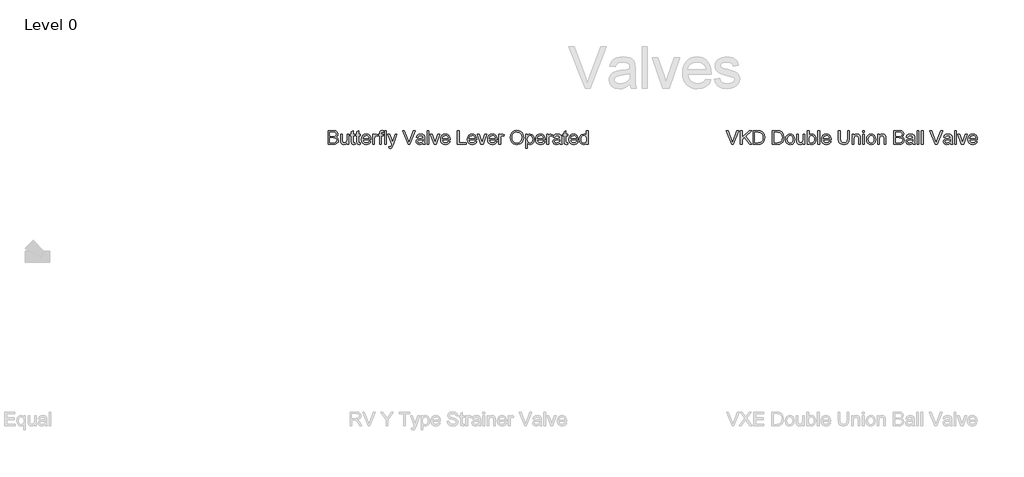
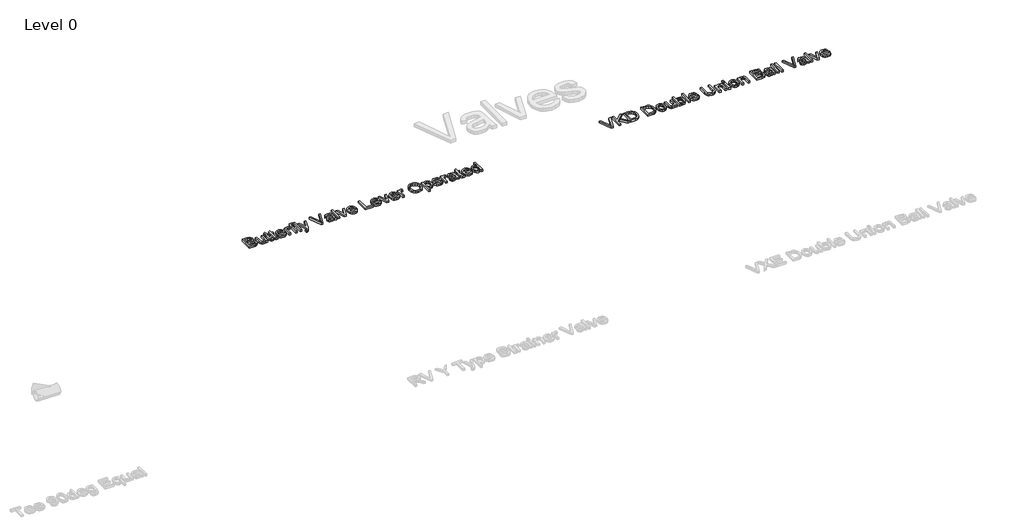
# One storey, part 11 of 12: 2 proxies.
"""IFC4 building model written with IfcOpenShell, lengths in millimetres."""

from ifc_helpers import new_model, si_unit, origin, origin_with_axes, place, context, project, spatial, polyline, outline, extrude, element, save

model = new_model("IFC4")

# Units and contexts
model_context = context("Model", 3, world=origin())
ifc_project = project(units=[si_unit("LENGTHUNIT", "METRE", prefix="MILLI")], contexts=[model_context])

# Site, building, storey
site = spatial("IfcSite", under=ifc_project)
building = spatial("IfcBuilding", under=site)
storey = spatial("IfcBuildingStorey", under=building, Name="Level 0", Elevation=0.0)

# Proxies
placement = place(None, origin())
element("IfcBuildingElementProxy", 1, Name="150mm Arial", ObjectType="150mm Arial", at=placement, inside=storey, context=model_context, shape_type="SweptSolid", body=[
    extrude(outline(polyline([(-8160.2746381, 8945.7253457), (-8160.2746381, 9044.1868842), (-8122.7025227, 9044.1868842), (-8104.3010804, 9041.2902496), (-8093.4356958, 9032.3839996), (-8089.5054073, 9019.7878457), (-8092.8106958, 9008.2854419), (-8102.7986766, 8999.5714996), (-8090.6712727, 8990.3888073), (-8086.4284843, 8975.0763073), (-8089.3251189, 8961.8431342), (-8096.5005996, 8952.4200573), (-8107.2097343, 8947.4200573), (-8122.9909843, 8945.7253457), (-8160.2746381, 8945.7253457)]), holes=[polyline([(-8147.9669458, 8958.033038), (-8122.7265612, 8958.033038), (-8113.5919458, 8958.5138073), (-8105.8635804, 8961.1940957), (-8100.7433881, 8966.6628457), (-8098.7361766, 8974.956115), (-8101.0919458, 8984.5234227), (-8108.7241573, 8990.2325573), (-8123.9284843, 8991.8791919), (-8147.9669458, 8991.8791919), (-8147.9669458, 8958.033038)]), polyline([(-8147.9669458, 9004.1868842), (-8125.4909843, 9004.1868842), (-8112.3659843, 9005.2445765), (-8104.4693496, 9009.799865), (-8101.8130996, 9017.8166919), (-8104.2890612, 9025.845538), (-8111.3804073, 9030.5931342), (-8127.197715, 9031.8791919), (-8147.9669458, 9031.8791919), (-8147.9669458, 9004.1868842)])]), origin_with_axes(), (0.0, 0.0, 1.0), 15.0),
    extrude(outline(polyline([(-8024.8900227, 8945.7253457), (-8024.8900227, 8958.1532304), (-8034.5294458, 8947.6784707), (-8047.1015612, 8944.1868842), (-8058.6760804, 8946.6388073), (-8066.6568496, 8952.7926534), (-8070.322715, 8961.8551534), (-8071.0438689, 8973.2974611), (-8071.0438689, 9018.033038), (-8058.7361766, 9018.033038), (-8058.7361766, 8979.0907304), (-8057.9909843, 8966.5426534), (-8053.1231958, 8959.174865), (-8043.9525227, 8956.4945765), (-8033.6760804, 8959.2349611), (-8026.885215, 8966.6989034), (-8024.8900227, 8980.4128457), (-8024.8900227, 9018.033038), (-8012.5823304, 9018.033038), (-8012.5823304, 8945.7253457), (-8024.8900227, 8945.7253457)])), origin_with_axes(), (0.0, 0.0, 1.0), 15.0),
    extrude(outline(polyline([(-7969.5054073, 8955.9897688), (-7967.9669458, 8945.3647688), (-7977.1736766, 8944.1868842), (-7987.4861766, 8946.2301534), (-7992.6304073, 8951.5907304), (-7994.1207919, 8965.5570765), (-7994.1207919, 9005.7253457), (-8003.3515612, 9005.7253457), (-8003.3515612, 9018.033038), (-7994.1207919, 9018.033038), (-7994.1207919, 9035.6051534), (-7981.8130996, 9042.8407304), (-7981.8130996, 9018.033038), (-7969.5054073, 9018.033038), (-7969.5054073, 9005.7253457), (-7981.8130996, 9005.7253457), (-7981.8130996, 8965.9176534), (-7981.1640612, 8959.5714996), (-7979.0606958, 8957.3239034), (-7974.8659843, 8956.4945765), (-7969.5054073, 8955.9897688)])), origin_with_axes(), (0.0, 0.0, 1.0), 15.0),
    extrude(outline(polyline([(-7931.0438689, 8955.9897688), (-7929.5054073, 8945.3647688), (-7938.7121381, 8944.1868842), (-7949.0246381, 8946.2301534), (-7954.1688689, 8951.5907304), (-7955.6592535, 8965.5570765), (-7955.6592535, 9005.7253457), (-7964.8900227, 9005.7253457), (-7964.8900227, 9018.033038), (-7955.6592535, 9018.033038), (-7955.6592535, 9035.6051534), (-7943.3515612, 9042.8407304), (-7943.3515612, 9018.033038), (-7931.0438689, 9018.033038), (-7931.0438689, 9005.7253457), (-7943.3515612, 9005.7253457), (-7943.3515612, 8965.9176534), (-7942.7025227, 8959.5714996), (-7940.5991573, 8957.3239034), (-7936.4044458, 8956.4945765), (-7931.0438689, 8955.9897688)])), origin_with_axes(), (0.0, 0.0, 1.0), 15.0),
    extrude(outline(polyline([(-7868.1111766, 8967.2638073), (-7856.0438689, 8965.7253457), (-7860.3918256, 8956.6327977), (-7867.3299266, 8949.8359227), (-7876.7019218, 8945.5991438), (-7888.3515612, 8944.1868842), (-7902.7926669, 8946.6237832), (-7913.9044458, 8953.9344804), (-7920.9897823, 8965.6442159), (-7923.3515612, 8981.2782304), (-7920.9657439, 8997.4380861), (-7913.8082919, 9009.5234227), (-7902.8467535, 9017.0594804), (-7889.0486766, 9019.5714996), (-7875.6802871, 9017.06549), (-7864.9981958, 9009.5474611), (-7857.9939891, 8997.486163), (-7855.6592535, 8981.3503457), (-7855.7313689, 8978.033038), (-7911.0438689, 8978.033038), (-7908.9134602, 8968.8202977), (-7903.9645419, 8962.0474611), (-7888.1111766, 8956.4945765), (-7876.0438689, 8959.0666919), (-7868.1111766, 8967.2638073)]), holes=[polyline([(-7911.0438689, 8990.3407304), (-7867.9669458, 8990.3407304), (-7872.8948304, 9001.4945765), (-7880.0703112, 9005.8214996), (-7889.0967535, 9007.2638073), (-7904.2530035, 9002.6604419), (-7911.0438689, 8990.3407304)])]), origin_with_axes(), (0.0, 0.0, 1.0), 15.0),
    extrude(outline(polyline([(-7843.3515612, 8945.7253457), (-7843.3515612, 9018.033038), (-7832.5823304, 9018.033038), (-7832.5823304, 9007.3359227), (-7824.9380996, 9017.1916919), (-7817.2457919, 9019.5714996), (-7804.8900227, 9015.7734227), (-7809.0005996, 9004.7397688), (-7817.6544458, 9007.2638073), (-7824.6135804, 9004.8359227), (-7829.0486766, 8998.1051534), (-7831.0438689, 8983.7301534), (-7831.0438689, 8945.7253457), (-7843.3515612, 8945.7253457)])), origin_with_axes(), (0.0, 0.0, 1.0), 15.0),
    extrude(outline(polyline([(-7794.1207919, 8945.7253457), (-7794.1207919, 9005.7253457), (-7804.8900227, 9005.7253457), (-7804.8900227, 9018.033038), (-7794.1207919, 9018.033038), (-7794.1207919, 9025.3166919), (-7792.822715, 9035.581115), (-7786.5246381, 9042.9128457), (-7774.1207919, 9045.7253457), (-7762.8948304, 9044.3791919), (-7764.697715, 9032.8407304), (-7771.7890612, 9033.4176534), (-7779.541465, 9031.3743842), (-7781.8130996, 9023.7541919), (-7781.8130996, 9018.033038), (-7767.9669458, 9018.033038), (-7767.9669458, 9005.7253457), (-7781.8130996, 9005.7253457), (-7781.8130996, 8945.7253457), (-7794.1207919, 8945.7253457)])), origin_with_axes(), (0.0, 0.0, 1.0), 15.0),
    extrude(outline(polyline([(-7757.197715, 8945.7253457), (-7757.197715, 9044.1868842), (-7744.8900227, 9044.1868842), (-7744.8900227, 8945.7253457), (-7757.197715, 8945.7253457)])), origin_with_axes(), (0.0, 0.0, 1.0), 15.0),
    extrude(outline(polyline([(-7726.4284843, 8918.033038), (-7727.9669458, 8929.8839996), (-7721.7169458, 8928.8022688), (-7715.8755996, 8930.1604419), (-7712.2938689, 8933.9464996), (-7708.9284843, 8943.0089996), (-7707.9669458, 8945.9897688), (-7734.1207919, 9018.033038), (-7721.1400227, 9018.033038), (-7707.2698304, 8977.8888073), (-7702.4380996, 8961.831115), (-7697.6063689, 8976.0138073), (-7683.3515612, 9018.033038), (-7670.4669458, 9018.033038), (-7695.635215, 8943.9945765), (-7702.1736766, 8927.9368842), (-7709.3130996, 8919.2589996), (-7718.9044458, 8916.4945765), (-7726.4284843, 8918.033038)])), origin_with_axes(), (0.0, 0.0, 1.0), 15.0),
    extrude(outline(polyline([(-7591.1880996, 8945.7253457), (-7630.3707919, 9044.1868842), (-7617.197715, 9044.1868842), (-7590.9717535, 8973.2493842), (-7585.6592535, 8957.2638073), (-7580.4188689, 8973.2493842), (-7554.1207919, 9044.1868842), (-7540.947715, 9044.1868842), (-7578.4717535, 8945.7253457), (-7591.1880996, 8945.7253457)])), origin_with_axes(), (0.0, 0.0, 1.0), 15.0),
    extrude(outline(polyline([(-7484.8900227, 8954.956115), (-7496.8251189, 8946.6147688), (-7510.010215, 8944.1868842), (-7520.2956718, 8945.6472207), (-7527.8828112, 8950.0282304), (-7532.5612968, 8956.6808746), (-7534.1207919, 8964.956115), (-7531.7650227, 8974.6916919), (-7525.5751189, 8981.7589996), (-7516.9573304, 8985.7974611), (-7506.3082919, 8987.6484227), (-7484.9621381, 8991.8791919), (-7484.8900227, 8994.6195765), (-7488.2794458, 9003.706115), (-7501.885215, 9007.2638073), (-7514.3371381, 9004.8960188), (-7520.2746381, 8996.4945765), (-7532.5823304, 8998.033038), (-7527.2578112, 9010.0522688), (-7516.5366573, 9017.095538), (-7500.2986766, 9019.5714996), (-7485.3828112, 9017.3839996), (-7476.9573304, 9011.8912111), (-7473.1832919, 9003.5378457), (-7472.5823304, 8992.768615), (-7472.5823304, 8977.456115), (-7471.9573304, 8956.0739034), (-7469.5054073, 8945.7253457), (-7481.8130996, 8945.7253457), (-7484.8900227, 8954.956115)]), holes=[polyline([(-7484.8900227, 8979.5714996), (-7504.7457919, 8975.7974611), (-7515.3347343, 8973.8022688), (-7520.1304073, 8970.5570765), (-7521.8130996, 8965.8214996), (-7518.1472343, 8959.1628457), (-7507.3900227, 8956.4945765), (-7494.9380996, 8959.439288), (-7486.9092535, 8966.5666919), (-7484.9621381, 8976.0859227), (-7484.8900227, 8979.5714996)])]), origin_with_axes(), (0.0, 0.0, 1.0), 15.0),
    extrude(outline(polyline([(-7455.6592535, 8945.7253457), (-7455.6592535, 9044.1868842), (-7443.3515612, 9044.1868842), (-7443.3515612, 8945.7253457), (-7455.6592535, 8945.7253457)])), origin_with_axes(), (0.0, 0.0, 1.0), 15.0),
    extrude(outline(polyline([(-7407.1496381, 8945.7253457), (-7432.5823304, 9018.033038), (-7419.5534843, 9018.033038), (-7404.1448304, 8974.7157304), (-7399.5054073, 8960.1484227), (-7394.9621381, 8973.8984227), (-7379.4573304, 9018.033038), (-7366.4284843, 9018.033038), (-7391.5486766, 8945.7253457), (-7407.1496381, 8945.7253457)])), origin_with_axes(), (0.0, 0.0, 1.0), 15.0),
    extrude(outline(polyline([(-7305.0342535, 8967.2638073), (-7292.9669458, 8965.7253457), (-7297.3149025, 8956.6327977), (-7304.2530035, 8949.8359227), (-7313.6249987, 8945.5991438), (-7325.2746381, 8944.1868842), (-7339.7157439, 8946.6237832), (-7350.8275227, 8953.9344804), (-7357.9128593, 8965.6442159), (-7360.2746381, 8981.2782304), (-7357.8888208, 8997.4380861), (-7350.7313689, 9009.5234227), (-7339.7698304, 9017.0594804), (-7325.9717535, 9019.5714996), (-7312.6033641, 9017.06549), (-7301.9212727, 9009.5474611), (-7294.917066, 8997.486163), (-7292.5823304, 8981.3503457), (-7292.6544458, 8978.033038), (-7347.9669458, 8978.033038), (-7345.8365371, 8968.8202977), (-7340.8876189, 8962.0474611), (-7325.0342535, 8956.4945765), (-7312.9669458, 8959.0666919), (-7305.0342535, 8967.2638073)]), holes=[polyline([(-7347.9669458, 8990.3407304), (-7304.8900227, 8990.3407304), (-7309.8179073, 9001.4945765), (-7316.9933881, 9005.8214996), (-7326.0198304, 9007.2638073), (-7341.1760804, 9002.6604419), (-7347.9669458, 8990.3407304)])]), origin_with_axes(), (0.0, 0.0, 1.0), 15.0),
    extrude(outline(polyline([(-7240.2746381, 8945.7253457), (-7240.2746381, 9044.1868842), (-7227.9669458, 9044.1868842), (-7227.9669458, 8958.033038), (-7178.7361766, 8958.033038), (-7178.7361766, 8945.7253457), (-7240.2746381, 8945.7253457)])), origin_with_axes(), (0.0, 0.0, 1.0), 15.0),
    extrude(outline(polyline([(-7115.8034843, 8967.2638073), (-7103.7361766, 8965.7253457), (-7108.0841333, 8956.6327977), (-7115.0222343, 8949.8359227), (-7124.3942294, 8945.5991438), (-7136.0438689, 8944.1868842), (-7150.4849746, 8946.6237832), (-7161.5967535, 8953.9344804), (-7168.68209, 8965.6442159), (-7171.0438689, 8981.2782304), (-7168.6580516, 8997.4380861), (-7161.5005996, 9009.5234227), (-7150.5390612, 9017.0594804), (-7136.7409843, 9019.5714996), (-7123.3725948, 9017.06549), (-7112.6905035, 9009.5474611), (-7105.6862968, 8997.486163), (-7103.3515612, 8981.3503457), (-7103.4236766, 8978.033038), (-7158.7361766, 8978.033038), (-7156.6057679, 8968.8202977), (-7151.6568496, 8962.0474611), (-7135.8034843, 8956.4945765), (-7123.7361766, 8959.0666919), (-7115.8034843, 8967.2638073)]), holes=[polyline([(-7158.7361766, 8990.3407304), (-7115.6592535, 8990.3407304), (-7120.5871381, 9001.4945765), (-7127.7626189, 9005.8214996), (-7136.7890612, 9007.2638073), (-7151.9453112, 9002.6604419), (-7158.7361766, 8990.3407304)])]), origin_with_axes(), (0.0, 0.0, 1.0), 15.0),
    extrude(outline(polyline([(-7073.3034843, 8945.7253457), (-7098.7361766, 9018.033038), (-7085.7073304, 9018.033038), (-7070.2986766, 8974.7157304), (-7065.6592535, 8960.1484227), (-7061.1159843, 8973.8984227), (-7045.6111766, 9018.033038), (-7032.5823304, 9018.033038), (-7057.7025227, 8945.7253457), (-7073.3034843, 8945.7253457)])), origin_with_axes(), (0.0, 0.0, 1.0), 15.0),
    extrude(outline(polyline([(-6971.1880996, 8967.2638073), (-6959.1207919, 8965.7253457), (-6963.4687487, 8956.6327977), (-6970.4068496, 8949.8359227), (-6979.7788448, 8945.5991438), (-6991.4284843, 8944.1868842), (-7005.86959, 8946.6237832), (-7016.9813689, 8953.9344804), (-7024.0667054, 8965.6442159), (-7026.4284843, 8981.2782304), (-7024.0426669, 8997.4380861), (-7016.885215, 9009.5234227), (-7005.9236766, 9017.0594804), (-6992.1255996, 9019.5714996), (-6978.7572102, 9017.06549), (-6968.0751189, 9009.5474611), (-6961.0709121, 8997.486163), (-6958.7361766, 8981.3503457), (-6958.8082919, 8978.033038), (-7014.1207919, 8978.033038), (-7011.9903833, 8968.8202977), (-7007.041465, 8962.0474611), (-6991.1880996, 8956.4945765), (-6979.1207919, 8959.0666919), (-6971.1880996, 8967.2638073)]), holes=[polyline([(-7014.1207919, 8990.3407304), (-6971.0438689, 8990.3407304), (-6975.9717535, 9001.4945765), (-6983.1472343, 9005.8214996), (-6992.1736766, 9007.2638073), (-7007.3299266, 9002.6604419), (-7014.1207919, 8990.3407304)])]), origin_with_axes(), (0.0, 0.0, 1.0), 15.0),
    extrude(outline(polyline([(-6946.4284843, 8945.7253457), (-6946.4284843, 9018.033038), (-6935.6592535, 9018.033038), (-6935.6592535, 9007.3359227), (-6928.0150227, 9017.1916919), (-6920.322715, 9019.5714996), (-6907.9669458, 9015.7734227), (-6912.0775227, 9004.7397688), (-6920.7313689, 9007.2638073), (-6927.6905035, 9004.8359227), (-6932.1255996, 8998.1051534), (-6934.1207919, 8983.7301534), (-6934.1207919, 8945.7253457), (-6946.4284843, 8945.7253457)])), origin_with_axes(), (0.0, 0.0, 1.0), 15.0),
    extrude(outline(polyline([(-6864.8900227, 8993.658038), (-6861.6087727, 9015.4308746), (-6851.7650227, 9031.9032304), (-6836.7349746, 9042.2698169), (-6817.8948304, 9045.7253457), (-6804.9801669, 9044.1027496), (-6793.3996381, 9039.2349611), (-6783.7842535, 9031.4645284), (-6776.7650227, 9021.1339996), (-6771.0438689, 8994.7878457), (-6772.5492775, 8980.6472207), (-6777.0655035, 8968.081115), (-6784.3431477, 8957.7325573), (-6794.1328112, 8950.2445765), (-6817.9669458, 8944.1868842), (-6831.0799266, 8945.8605621), (-6842.7265612, 8950.8815957), (-6852.3179073, 8958.7962592), (-6859.2650227, 8969.1508265), (-6864.8900227, 8993.658038)]), holes=[polyline([(-6852.5823304, 8993.5378457), (-6850.1213929, 8978.1352015), (-6842.7385804, 8966.3984227), (-6831.6418256, 8958.970538), (-6818.0390612, 8956.4945765), (-6804.2379794, 8958.9945765), (-6793.1231958, 8966.4945765), (-6785.7944698, 8978.5919323), (-6783.3515612, 8994.8839996), (-6787.5342535, 9015.1964996), (-6799.7578112, 9028.6460188), (-6817.822715, 9033.4176534), (-6831.0618977, 9031.1189755), (-6842.3179073, 9024.2229419), (-6850.0162246, 9011.9543121), (-6852.5823304, 8993.5378457)])]), origin_with_axes(), (0.0, 0.0, 1.0), 15.0),
    extrude(outline(polyline([(-6755.6592535, 8918.033038), (-6755.6592535, 9018.033038), (-6743.3515612, 9018.033038), (-6743.3515612, 9005.9657304), (-6734.8419458, 9016.1700573), (-6723.3515612, 9019.5714996), (-6707.7505996, 9014.8118842), (-6697.5582919, 9001.3984227), (-6694.1207919, 8982.4320765), (-6698.0030035, 8962.4921727), (-6709.2770419, 8948.9104419), (-6724.8419458, 8944.1868842), (-6735.5510804, 8947.3479419), (-6743.3515612, 8955.3407304), (-6743.3515612, 8918.033038), (-6755.6592535, 8918.033038)]), holes=[polyline([(-6743.3515612, 8981.3022688), (-6742.0204314, 8970.268615), (-6738.0270419, 8962.5522688), (-6732.1346141, 8958.0089996), (-6725.1063689, 8956.4945765), (-6717.963941, 8958.0630861), (-6711.9212727, 8962.768615), (-6707.8016814, 8970.767413), (-6706.4284843, 8982.2157304), (-6707.7686285, 8993.189288), (-6711.7890612, 9001.0138073), (-6717.6724746, 9005.7013073), (-6724.6015612, 9007.2638073), (-6731.557691, 9005.6021486), (-6737.666465, 9000.6171727), (-6741.9302871, 8992.4651294), (-6743.3515612, 8981.3022688)])]), origin_with_axes(), (0.0, 0.0, 1.0), 15.0),
    extrude(outline(polyline([(-6629.6496381, 8967.2638073), (-6617.5823304, 8965.7253457), (-6621.9302871, 8956.6327977), (-6628.8683881, 8949.8359227), (-6638.2403833, 8945.5991438), (-6649.8900227, 8944.1868842), (-6664.3311285, 8946.6237832), (-6675.4429073, 8953.9344804), (-6682.5282439, 8965.6442159), (-6684.8900227, 8981.2782304), (-6682.5042054, 8997.4380861), (-6675.3467535, 9009.5234227), (-6664.385215, 9017.0594804), (-6650.5871381, 9019.5714996), (-6637.2187487, 9017.06549), (-6626.5366573, 9009.5474611), (-6619.5324506, 8997.486163), (-6617.197715, 8981.3503457), (-6617.2698304, 8978.033038), (-6672.5823304, 8978.033038), (-6670.4519218, 8968.8202977), (-6665.5030035, 8962.0474611), (-6649.6496381, 8956.4945765), (-6637.5823304, 8959.0666919), (-6629.6496381, 8967.2638073)]), holes=[polyline([(-6672.5823304, 8990.3407304), (-6629.5054073, 8990.3407304), (-6634.4332919, 9001.4945765), (-6641.6087727, 9005.8214996), (-6650.635215, 9007.2638073), (-6665.791465, 9002.6604419), (-6672.5823304, 8990.3407304)])]), origin_with_axes(), (0.0, 0.0, 1.0), 15.0),
    extrude(outline(polyline([(-6604.8900227, 8945.7253457), (-6604.8900227, 9018.033038), (-6594.1207919, 9018.033038), (-6594.1207919, 9007.3359227), (-6586.4765612, 9017.1916919), (-6578.7842535, 9019.5714996), (-6566.4284843, 9015.7734227), (-6570.5390612, 9004.7397688), (-6579.1929073, 9007.2638073), (-6586.1520419, 9004.8359227), (-6590.5871381, 8998.1051534), (-6592.5823304, 8983.7301534), (-6592.5823304, 8945.7253457), (-6604.8900227, 8945.7253457)])), origin_with_axes(), (0.0, 0.0, 1.0), 15.0),
    extrude(outline(polyline([(-6512.5823304, 8954.956115), (-6524.5174266, 8946.6147688), (-6537.7025227, 8944.1868842), (-6547.9879794, 8945.6472207), (-6555.5751189, 8950.0282304), (-6560.2536044, 8956.6808746), (-6561.8130996, 8964.956115), (-6559.4573304, 8974.6916919), (-6553.2674266, 8981.7589996), (-6544.6496381, 8985.7974611), (-6534.0005996, 8987.6484227), (-6512.6544458, 8991.8791919), (-6512.5823304, 8994.6195765), (-6515.9717535, 9003.706115), (-6529.5775227, 9007.2638073), (-6542.0294458, 9004.8960188), (-6547.9669458, 8996.4945765), (-6560.2746381, 8998.033038), (-6554.9501189, 9010.0522688), (-6544.228965, 9017.095538), (-6527.9909843, 9019.5714996), (-6513.0751189, 9017.3839996), (-6504.6496381, 9011.8912111), (-6500.8755996, 9003.5378457), (-6500.2746381, 8992.768615), (-6500.2746381, 8977.456115), (-6499.6496381, 8956.0739034), (-6497.197715, 8945.7253457), (-6509.5054073, 8945.7253457), (-6512.5823304, 8954.956115)]), holes=[polyline([(-6512.5823304, 8979.5714996), (-6532.4380996, 8975.7974611), (-6543.0270419, 8973.8022688), (-6547.822715, 8970.5570765), (-6549.5054073, 8965.8214996), (-6545.8395419, 8959.1628457), (-6535.0823304, 8956.4945765), (-6522.6304073, 8959.439288), (-6514.6015612, 8966.5666919), (-6512.6544458, 8976.0859227), (-6512.5823304, 8979.5714996)])]), origin_with_axes(), (0.0, 0.0, 1.0), 15.0),
    extrude(outline(polyline([(-6457.197715, 8955.9897688), (-6455.6592535, 8945.3647688), (-6464.8659843, 8944.1868842), (-6475.1784843, 8946.2301534), (-6480.322715, 8951.5907304), (-6481.8130996, 8965.5570765), (-6481.8130996, 9005.7253457), (-6491.0438689, 9005.7253457), (-6491.0438689, 9018.033038), (-6481.8130996, 9018.033038), (-6481.8130996, 9035.6051534), (-6469.5054073, 9042.8407304), (-6469.5054073, 9018.033038), (-6457.197715, 9018.033038), (-6457.197715, 9005.7253457), (-6469.5054073, 9005.7253457), (-6469.5054073, 8965.9176534), (-6468.8563689, 8959.5714996), (-6466.7530035, 8957.3239034), (-6462.5582919, 8956.4945765), (-6457.197715, 8955.9897688)])), origin_with_axes(), (0.0, 0.0, 1.0), 15.0),
    extrude(outline(polyline([(-6394.2650227, 8967.2638073), (-6382.197715, 8965.7253457), (-6386.5456718, 8956.6327977), (-6393.4837727, 8949.8359227), (-6402.8557679, 8945.5991438), (-6414.5054073, 8944.1868842), (-6428.9465131, 8946.6237832), (-6440.0582919, 8953.9344804), (-6447.1436285, 8965.6442159), (-6449.5054073, 8981.2782304), (-6447.11959, 8997.4380861), (-6439.9621381, 9009.5234227), (-6429.0005996, 9017.0594804), (-6415.2025227, 9019.5714996), (-6401.8341333, 9017.06549), (-6391.1520419, 9009.5474611), (-6384.1478352, 8997.486163), (-6381.8130996, 8981.3503457), (-6381.885215, 8978.033038), (-6437.197715, 8978.033038), (-6435.0673064, 8968.8202977), (-6430.1183881, 8962.0474611), (-6414.2650227, 8956.4945765), (-6402.197715, 8959.0666919), (-6394.2650227, 8967.2638073)]), holes=[polyline([(-6437.197715, 8990.3407304), (-6394.1207919, 8990.3407304), (-6399.0486766, 9001.4945765), (-6406.2241573, 9005.8214996), (-6415.2505996, 9007.2638073), (-6430.4068496, 9002.6604419), (-6437.197715, 8990.3407304)])]), origin_with_axes(), (0.0, 0.0, 1.0), 15.0),
    extrude(outline(polyline([(-6324.8900227, 8945.7253457), (-6324.8900227, 8957.3359227), (-6333.0330516, 8947.4741438), (-6344.2890612, 8944.1868842), (-6359.5294458, 8948.9464996), (-6370.2986766, 8962.2277496), (-6374.1207919, 8981.8070765), (-6370.5991573, 9001.3984227), (-6360.0462727, 9014.8839996), (-6344.3371381, 9019.5714996), (-6332.9909843, 9016.2181342), (-6324.8900227, 9007.5041919), (-6324.8900227, 9044.1868842), (-6312.5823304, 9044.1868842), (-6312.5823304, 8945.7253457), (-6324.8900227, 8945.7253457)]), holes=[polyline([(-6361.8130996, 8981.8551534), (-6360.4248785, 8970.7223409), (-6356.260215, 8962.8046727), (-6350.2085323, 8958.0721005), (-6343.1592535, 8956.4945765), (-6336.1129794, 8957.9999852), (-6330.2145419, 8962.5162111), (-6326.2211525, 8970.127389), (-6324.8900227, 8980.9176534), (-6326.245191, 8992.7145284), (-6330.3106958, 9000.893615), (-6336.3593737, 9005.6712592), (-6343.6640612, 9007.2638073), (-6350.7854554, 9005.7343602), (-6356.6207919, 9001.1460188), (-6360.5150227, 8993.2644082), (-6361.8130996, 8981.8551534)])]), origin_with_axes(), (0.0, 0.0, 1.0), 15.0),
])
element("IfcBuildingElementProxy", 2, Name="150mm Arial", ObjectType="150mm Arial", at=placement, inside=storey, context=model_context, shape_type="SweptSolid", body=[
    extrude(outline(polyline([(-5291.9573304, 8945.7253457), (-5331.1400227, 9044.1868842), (-5317.9669458, 9044.1868842), (-5291.7409843, 8973.2493842), (-5286.4284843, 8957.2638073), (-5281.1880996, 8973.2493842), (-5254.8900227, 9044.1868842), (-5241.7169458, 9044.1868842), (-5279.2409843, 8945.7253457), (-5291.9573304, 8945.7253457)])), origin_with_axes(), (0.0, 0.0, 1.0), 15.0),
    extrude(outline(polyline([(-5230.2746381, 8945.7253457), (-5230.2746381, 9044.1868842), (-5217.9669458, 9044.1868842), (-5217.9669458, 8995.9897688), (-5167.4861766, 9044.1868842), (-5150.2746381, 9044.1868842), (-5192.6544458, 9003.706115), (-5148.7361766, 8945.7253457), (-5163.7842535, 8945.7253457), (-5201.3804073, 8995.3888073), (-5217.9669458, 8979.5714996), (-5217.9669458, 8945.7253457), (-5230.2746381, 8945.7253457)])), origin_with_axes(), (0.0, 0.0, 1.0), 15.0),
    extrude(outline(polyline([(-5139.5054073, 8945.7253457), (-5139.5054073, 9044.1868842), (-5105.5390612, 9044.1868842), (-5087.9669458, 9042.768615), (-5073.4957919, 9035.7253457), (-5061.8371381, 9018.8984227), (-5057.9669458, 8995.4849611), (-5060.5871381, 8975.6171727), (-5067.3179073, 8961.2782304), (-5076.3082919, 8952.3479419), (-5088.0751189, 8947.408038), (-5103.9044458, 8945.7253457), (-5139.5054073, 8945.7253457)]), holes=[polyline([(-5127.197715, 8958.033038), (-5105.4188689, 8958.033038), (-5089.5775227, 8959.8118842), (-5080.4429073, 8964.8359227), (-5072.9549266, 8977.0594804), (-5070.2746381, 8995.6772688), (-5071.5877391, 9009.0907304), (-5075.5270419, 9018.9945765), (-5088.3034843, 9029.908038), (-5105.7554073, 9031.8791919), (-5127.197715, 9031.8791919), (-5127.197715, 8958.033038)])]), origin_with_axes(), (0.0, 0.0, 1.0), 15.0),
    extrude(outline(polyline([(-5002.5823304, 8945.7253457), (-5002.5823304, 9044.1868842), (-4968.6159843, 9044.1868842), (-4951.0438689, 9042.768615), (-4936.572715, 9035.7253457), (-4924.9140612, 9018.8984227), (-4921.0438689, 8995.4849611), (-4923.6640612, 8975.6171727), (-4930.3948304, 8961.2782304), (-4939.385215, 8952.3479419), (-4951.1520419, 8947.408038), (-4966.9813689, 8945.7253457), (-5002.5823304, 8945.7253457)]), holes=[polyline([(-4990.2746381, 8958.033038), (-4968.4957919, 8958.033038), (-4952.6544458, 8959.8118842), (-4943.5198304, 8964.8359227), (-4936.0318496, 8977.0594804), (-4933.3515612, 8995.6772688), (-4934.6646621, 9009.0907304), (-4938.603965, 9018.9945765), (-4951.3804073, 9029.908038), (-4968.8323304, 9031.8791919), (-4990.2746381, 9031.8791919), (-4990.2746381, 8958.033038)])]), origin_with_axes(), (0.0, 0.0, 1.0), 15.0),
    extrude(outline(polyline([(-4908.7361766, 8981.8791919), (-4906.0739169, 8999.3130861), (-4898.0871381, 9011.5666919), (-4888.2193496, 9017.5702977), (-4876.4044458, 9019.5714996), (-4863.4747583, 9017.1346005), (-4853.1472343, 9009.8239034), (-4846.3774025, 8998.2163313), (-4844.1207919, 8982.8888073), (-4848.1111766, 8960.9897688), (-4859.7337727, 8948.5979419), (-4876.4044458, 8944.1868842), (-4889.4903833, 8946.6147688), (-4899.8058881, 8953.8984227), (-4906.5036044, 8965.7493842), (-4908.7361766, 8981.8791919)]), holes=[polyline([(-4896.4284843, 8981.9032304), (-4895.0042054, 8970.7644082), (-4890.7313689, 8962.8287111), (-4884.3010804, 8958.0781102), (-4876.4044458, 8956.4945765), (-4868.5438689, 8958.0871246), (-4862.1255996, 8962.8647688), (-4857.8527631, 8970.9056342), (-4856.4284843, 8982.2878457), (-4857.8617775, 8993.1021486), (-4862.1616573, 9000.9296727), (-4868.588941, 9005.6802736), (-4876.4044458, 9007.2638073), (-4884.3010804, 9005.6862832), (-4890.7313689, 9000.9537111), (-4895.0042054, 8993.0360429), (-4896.4284843, 8981.9032304)])]), origin_with_axes(), (0.0, 0.0, 1.0), 15.0),
    extrude(outline(polyline([(-4784.1207919, 8945.7253457), (-4784.1207919, 8958.1532304), (-4793.760215, 8947.6784707), (-4806.3323304, 8944.1868842), (-4817.9068496, 8946.6388073), (-4825.8876189, 8952.7926534), (-4829.5534843, 8961.8551534), (-4830.2746381, 8973.2974611), (-4830.2746381, 9018.033038), (-4817.9669458, 9018.033038), (-4817.9669458, 8979.0907304), (-4817.2217535, 8966.5426534), (-4812.353965, 8959.174865), (-4803.1832919, 8956.4945765), (-4792.9068496, 8959.2349611), (-4786.1159843, 8966.6989034), (-4784.1207919, 8980.4128457), (-4784.1207919, 9018.033038), (-4771.8130996, 9018.033038), (-4771.8130996, 8945.7253457), (-4784.1207919, 8945.7253457)])), origin_with_axes(), (0.0, 0.0, 1.0), 15.0),
    extrude(outline(polyline([(-4742.5823304, 8945.7253457), (-4754.8900227, 8945.7253457), (-4754.8900227, 9044.1868842), (-4742.5823304, 9044.1868842), (-4742.5823304, 9007.6724611), (-4733.9645419, 9016.59674), (-4723.2554073, 9019.5714996), (-4710.9236766, 9016.8912111), (-4701.3563689, 9009.3551534), (-4695.478965, 8997.6364034), (-4693.3515612, 8982.9609227), (-4695.5540852, 8966.5306342), (-4702.1616573, 8954.3070765), (-4711.8581718, 8946.7169323), (-4723.3275227, 8944.1868842), (-4734.2710323, 8947.4501054), (-4742.5823304, 8957.2397688), (-4742.5823304, 8945.7253457)]), holes=[polyline([(-4742.5823304, 8982.3839996), (-4739.2169458, 8965.1724611), (-4732.7686285, 8958.6640477), (-4724.385215, 8956.4945765), (-4717.2818496, 8958.0931342), (-4711.2121381, 8962.8888073), (-4707.0474746, 8970.8515477), (-4705.6592535, 8981.9513073), (-4706.9903833, 8993.2133265), (-4710.9837727, 9001.0859227), (-4716.8641814, 9005.7193361), (-4723.8563689, 9007.2638073), (-4730.9597343, 9005.6652496), (-4737.0294458, 9000.8695765), (-4741.1941093, 8993.0510669), (-4742.5823304, 8982.3839996)])]), origin_with_axes(), (0.0, 0.0, 1.0), 15.0),
    extrude(outline(polyline([(-4679.5054073, 8945.7253457), (-4679.5054073, 9044.1868842), (-4667.197715, 9044.1868842), (-4667.197715, 8945.7253457), (-4679.5054073, 8945.7253457)])), origin_with_axes(), (0.0, 0.0, 1.0), 15.0),
    extrude(outline(polyline([(-4598.1111766, 8967.2638073), (-4586.0438689, 8965.7253457), (-4590.3918256, 8956.6327977), (-4597.3299266, 8949.8359227), (-4606.7019218, 8945.5991438), (-4618.3515612, 8944.1868842), (-4632.7926669, 8946.6237832), (-4643.9044458, 8953.9344804), (-4650.9897823, 8965.6442159), (-4653.3515612, 8981.2782304), (-4650.9657439, 8997.4380861), (-4643.8082919, 9009.5234227), (-4632.8467535, 9017.0594804), (-4619.0486766, 9019.5714996), (-4605.6802871, 9017.06549), (-4594.9981958, 9009.5474611), (-4587.9939891, 8997.486163), (-4585.6592535, 8981.3503457), (-4585.7313689, 8978.033038), (-4641.0438689, 8978.033038), (-4638.9134602, 8968.8202977), (-4633.9645419, 8962.0474611), (-4618.1111766, 8956.4945765), (-4606.0438689, 8959.0666919), (-4598.1111766, 8967.2638073)]), holes=[polyline([(-4641.0438689, 8990.3407304), (-4597.9669458, 8990.3407304), (-4602.8948304, 9001.4945765), (-4610.0703112, 9005.8214996), (-4619.0967535, 9007.2638073), (-4634.2530035, 9002.6604419), (-4641.0438689, 8990.3407304)])]), origin_with_axes(), (0.0, 0.0, 1.0), 15.0),
    extrude(outline(polyline([(-4468.7361766, 9044.1868842), (-4456.4284843, 9044.1868842), (-4456.4284843, 8987.3839996), (-4459.7698304, 8963.8383265), (-4471.8130996, 8949.6556342), (-4481.8731958, 8945.5540717), (-4494.6496381, 8944.1868842), (-4517.1376189, 8948.9464996), (-4524.6255996, 8954.7728217), (-4529.6135804, 8962.7325573), (-4533.3515612, 8987.3839996), (-4533.3515612, 9044.1868842), (-4521.0438689, 9044.1868842), (-4521.0438689, 8987.8166919), (-4518.6159843, 8969.0546727), (-4510.2746381, 8959.7638073), (-4495.8034843, 8956.4945765), (-4483.2854554, 8958.111163), (-4474.9621381, 8962.9609227), (-4470.2926669, 8972.408038), (-4468.7361766, 8987.8166919), (-4468.7361766, 9044.1868842)])), origin_with_axes(), (0.0, 0.0, 1.0), 15.0),
    extrude(outline(polyline([(-4436.4284843, 8945.7253457), (-4436.4284843, 9018.033038), (-4424.1207919, 9018.033038), (-4424.1207919, 9007.9368842), (-4414.7097343, 9016.6628457), (-4401.8611766, 9019.5714996), (-4390.2385804, 9017.2277496), (-4382.3058881, 9011.0739034), (-4378.6159843, 9002.0234227), (-4377.9669458, 8990.1243842), (-4377.9669458, 8945.7253457), (-4390.2746381, 8945.7253457), (-4390.2746381, 8988.4657304), (-4391.6929073, 8999.3551534), (-4396.7049266, 9005.112365), (-4405.1544458, 9007.2638073), (-4418.5078112, 9002.4320765), (-4422.7175468, 8995.4308746), (-4424.1207919, 8984.0907304), (-4424.1207919, 8945.7253457), (-4436.4284843, 8945.7253457)])), origin_with_axes(), (0.0, 0.0, 1.0), 15.0),
    extrude(outline(polyline([(-4361.0438689, 8945.7253457), (-4361.0438689, 9018.033038), (-4348.7361766, 9018.033038), (-4348.7361766, 8945.7253457), (-4361.0438689, 8945.7253457)])), origin_with_axes(), (0.0, 0.0, 1.0), 15.0),
    extrude(outline(polyline([(-4361.0438689, 9031.8791919), (-4361.0438689, 9044.1868842), (-4348.7361766, 9044.1868842), (-4348.7361766, 9031.8791919), (-4361.0438689, 9031.8791919)])), origin_with_axes(), (0.0, 0.0, 1.0), 15.0),
    extrude(outline(polyline([(-4333.3515612, 8981.8791919), (-4330.6893016, 8999.3130861), (-4322.7025227, 9011.5666919), (-4312.8347343, 9017.5702977), (-4301.0198304, 9019.5714996), (-4288.0901429, 9017.1346005), (-4277.7626189, 9009.8239034), (-4270.9927871, 8998.2163313), (-4268.7361766, 8982.8888073), (-4272.7265612, 8960.9897688), (-4284.3491573, 8948.5979419), (-4301.0198304, 8944.1868842), (-4314.1057679, 8946.6147688), (-4324.4212727, 8953.8984227), (-4331.1189891, 8965.7493842), (-4333.3515612, 8981.8791919)]), holes=[polyline([(-4321.0438689, 8981.9032304), (-4319.61959, 8970.7644082), (-4315.3467535, 8962.8287111), (-4308.916465, 8958.0781102), (-4301.0198304, 8956.4945765), (-4293.1592535, 8958.0871246), (-4286.7409843, 8962.8647688), (-4282.4681477, 8970.9056342), (-4281.0438689, 8982.2878457), (-4282.4771621, 8993.1021486), (-4286.7770419, 9000.9296727), (-4293.2043256, 9005.6802736), (-4301.0198304, 9007.2638073), (-4308.916465, 9005.6862832), (-4315.3467535, 9000.9537111), (-4319.61959, 8993.0360429), (-4321.0438689, 8981.9032304)])]), origin_with_axes(), (0.0, 0.0, 1.0), 15.0),
    extrude(outline(polyline([(-4254.8900227, 8945.7253457), (-4254.8900227, 9018.033038), (-4242.5823304, 9018.033038), (-4242.5823304, 9007.9368842), (-4233.1712727, 9016.6628457), (-4220.322715, 9019.5714996), (-4208.7001189, 9017.2277496), (-4200.7674266, 9011.0739034), (-4197.0775227, 9002.0234227), (-4196.4284843, 8990.1243842), (-4196.4284843, 8945.7253457), (-4208.7361766, 8945.7253457), (-4208.7361766, 8988.4657304), (-4210.1544458, 8999.3551534), (-4215.166465, 9005.112365), (-4223.6159843, 9007.2638073), (-4236.9693496, 9002.4320765), (-4241.1790852, 8995.4308746), (-4242.5823304, 8984.0907304), (-4242.5823304, 8945.7253457), (-4254.8900227, 8945.7253457)])), origin_with_axes(), (0.0, 0.0, 1.0), 15.0),
    extrude(outline(polyline([(-4139.5054073, 8945.7253457), (-4139.5054073, 9044.1868842), (-4101.9332919, 9044.1868842), (-4083.5318496, 9041.2902496), (-4072.666465, 9032.3839996), (-4068.7361766, 9019.7878457), (-4072.041465, 9008.2854419), (-4082.0294458, 8999.5714996), (-4069.9020419, 8990.3888073), (-4065.6592535, 8975.0763073), (-4068.5558881, 8961.8431342), (-4075.7313689, 8952.4200573), (-4086.4405035, 8947.4200573), (-4102.2217535, 8945.7253457), (-4139.5054073, 8945.7253457)]), holes=[polyline([(-4127.197715, 9004.1868842), (-4104.7217535, 9004.1868842), (-4091.5967535, 9005.2445765), (-4083.7001189, 9009.799865), (-4081.0438689, 9017.8166919), (-4083.5198304, 9025.845538), (-4090.6111766, 9030.5931342), (-4106.4284843, 9031.8791919), (-4127.197715, 9031.8791919), (-4127.197715, 9004.1868842)]), polyline([(-4127.197715, 8958.033038), (-4101.9573304, 8958.033038), (-4092.822715, 8958.5138073), (-4085.0943496, 8961.1940957), (-4079.9741573, 8966.6628457), (-4077.9669458, 8974.956115), (-4080.322715, 8984.5234227), (-4087.9549266, 8990.2325573), (-4103.1592535, 8991.8791919), (-4127.197715, 8991.8791919), (-4127.197715, 8958.033038)])]), origin_with_axes(), (0.0, 0.0, 1.0), 15.0),
    extrude(outline(polyline([(-4004.1207919, 8954.956115), (-4016.0558881, 8946.6147688), (-4029.2409843, 8944.1868842), (-4039.526441, 8945.6472207), (-4047.1135804, 8950.0282304), (-4051.792066, 8956.6808746), (-4053.3515612, 8964.956115), (-4050.9957919, 8974.6916919), (-4044.8058881, 8981.7589996), (-4036.1880996, 8985.7974611), (-4025.5390612, 8987.6484227), (-4004.1929073, 8991.8791919), (-4004.1207919, 8994.6195765), (-4007.510215, 9003.706115), (-4021.1159843, 9007.2638073), (-4033.5679073, 9004.8960188), (-4039.5054073, 8996.4945765), (-4051.8130996, 8998.033038), (-4046.4885804, 9010.0522688), (-4035.7674266, 9017.095538), (-4019.5294458, 9019.5714996), (-4004.6135804, 9017.3839996), (-3996.1880996, 9011.8912111), (-3992.4140612, 9003.5378457), (-3991.8130996, 8992.768615), (-3991.8130996, 8977.456115), (-3991.1880996, 8956.0739034), (-3988.7361766, 8945.7253457), (-4001.0438689, 8945.7253457), (-4004.1207919, 8954.956115)]), holes=[polyline([(-4004.1207919, 8979.5714996), (-4023.9765612, 8975.7974611), (-4034.5655035, 8973.8022688), (-4039.3611766, 8970.5570765), (-4041.0438689, 8965.8214996), (-4037.3780035, 8959.1628457), (-4026.6207919, 8956.4945765), (-4014.1688689, 8959.439288), (-4006.1400227, 8966.5666919), (-4004.1929073, 8976.0859227), (-4004.1207919, 8979.5714996)])]), origin_with_axes(), (0.0, 0.0, 1.0), 15.0),
    extrude(outline(polyline([(-3974.8900227, 8945.7253457), (-3974.8900227, 9044.1868842), (-3962.5823304, 9044.1868842), (-3962.5823304, 8945.7253457), (-3974.8900227, 8945.7253457)])), origin_with_axes(), (0.0, 0.0, 1.0), 15.0),
    extrude(outline(polyline([(-3944.1207919, 8945.7253457), (-3944.1207919, 9044.1868842), (-3931.8130996, 9044.1868842), (-3931.8130996, 8945.7253457), (-3944.1207919, 8945.7253457)])), origin_with_axes(), (0.0, 0.0, 1.0), 15.0),
    extrude(outline(polyline([(-3844.2650227, 8945.7253457), (-3883.447715, 9044.1868842), (-3870.2746381, 9044.1868842), (-3844.0486766, 8973.2493842), (-3838.7361766, 8957.2638073), (-3833.4957919, 8973.2493842), (-3807.197715, 9044.1868842), (-3794.0246381, 9044.1868842), (-3831.5486766, 8945.7253457), (-3844.2650227, 8945.7253457)])), origin_with_axes(), (0.0, 0.0, 1.0), 15.0),
    extrude(outline(polyline([(-3737.9669458, 8954.956115), (-3749.9020419, 8946.6147688), (-3763.0871381, 8944.1868842), (-3773.3725948, 8945.6472207), (-3780.9597343, 8950.0282304), (-3785.6382198, 8956.6808746), (-3787.197715, 8964.956115), (-3784.8419458, 8974.6916919), (-3778.6520419, 8981.7589996), (-3770.0342535, 8985.7974611), (-3759.385215, 8987.6484227), (-3738.0390612, 8991.8791919), (-3737.9669458, 8994.6195765), (-3741.3563689, 9003.706115), (-3754.9621381, 9007.2638073), (-3767.4140612, 9004.8960188), (-3773.3515612, 8996.4945765), (-3785.6592535, 8998.033038), (-3780.3347343, 9010.0522688), (-3769.6135804, 9017.095538), (-3753.3755996, 9019.5714996), (-3738.4597343, 9017.3839996), (-3730.0342535, 9011.8912111), (-3726.260215, 9003.5378457), (-3725.6592535, 8992.768615), (-3725.6592535, 8977.456115), (-3725.0342535, 8956.0739034), (-3722.5823304, 8945.7253457), (-3734.8900227, 8945.7253457), (-3737.9669458, 8954.956115)]), holes=[polyline([(-3737.9669458, 8979.5714996), (-3757.822715, 8975.7974611), (-3768.4116573, 8973.8022688), (-3773.2073304, 8970.5570765), (-3774.8900227, 8965.8214996), (-3771.2241573, 8959.1628457), (-3760.4669458, 8956.4945765), (-3748.0150227, 8959.439288), (-3739.9861766, 8966.5666919), (-3738.0390612, 8976.0859227), (-3737.9669458, 8979.5714996)])]), origin_with_axes(), (0.0, 0.0, 1.0), 15.0),
    extrude(outline(polyline([(-3708.7361766, 8945.7253457), (-3708.7361766, 9044.1868842), (-3696.4284843, 9044.1868842), (-3696.4284843, 8945.7253457), (-3708.7361766, 8945.7253457)])), origin_with_axes(), (0.0, 0.0, 1.0), 15.0),
    extrude(outline(polyline([(-3660.2265612, 8945.7253457), (-3685.6592535, 9018.033038), (-3672.6304073, 9018.033038), (-3657.2217535, 8974.7157304), (-3652.5823304, 8960.1484227), (-3648.0390612, 8973.8984227), (-3632.5342535, 9018.033038), (-3619.5054073, 9018.033038), (-3644.6255996, 8945.7253457), (-3660.2265612, 8945.7253457)])), origin_with_axes(), (0.0, 0.0, 1.0), 15.0),
    extrude(outline(polyline([(-3558.1111766, 8967.2638073), (-3546.0438689, 8965.7253457), (-3550.3918256, 8956.6327977), (-3557.3299266, 8949.8359227), (-3566.7019218, 8945.5991438), (-3578.3515612, 8944.1868842), (-3592.7926669, 8946.6237832), (-3603.9044458, 8953.9344804), (-3610.9897823, 8965.6442159), (-3613.3515612, 8981.2782304), (-3610.9657439, 8997.4380861), (-3603.8082919, 9009.5234227), (-3592.8467535, 9017.0594804), (-3579.0486766, 9019.5714996), (-3565.6802871, 9017.06549), (-3554.9981958, 9009.5474611), (-3547.9939891, 8997.486163), (-3545.6592535, 8981.3503457), (-3545.7313689, 8978.033038), (-3601.0438689, 8978.033038), (-3598.9134602, 8968.8202977), (-3593.9645419, 8962.0474611), (-3578.1111766, 8956.4945765), (-3566.0438689, 8959.0666919), (-3558.1111766, 8967.2638073)]), holes=[polyline([(-3601.0438689, 8990.3407304), (-3557.9669458, 8990.3407304), (-3562.8948304, 9001.4945765), (-3570.0703112, 9005.8214996), (-3579.0967535, 9007.2638073), (-3594.2530035, 9002.6604419), (-3601.0438689, 8990.3407304)])]), origin_with_axes(), (0.0, 0.0, 1.0), 15.0),
])

save(model, "model.ifc")
